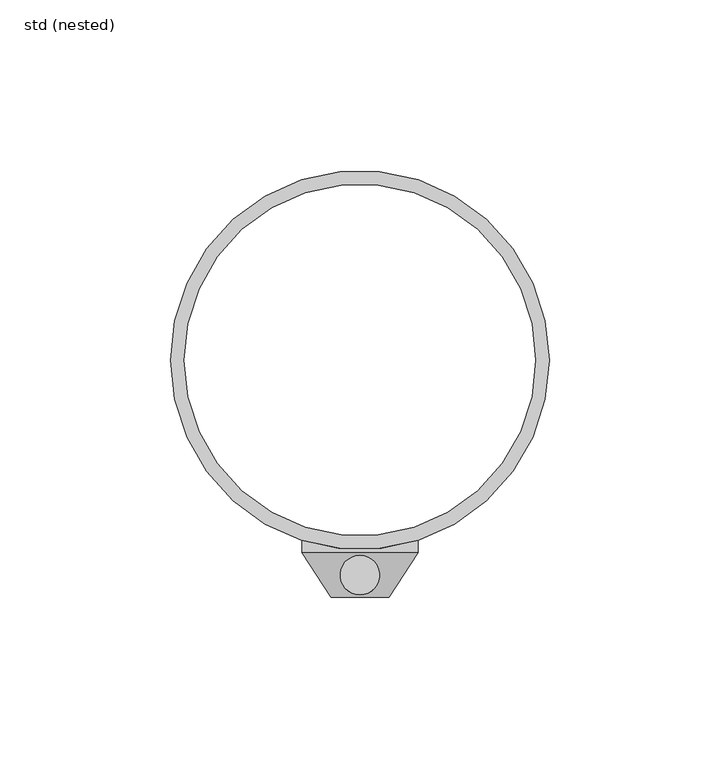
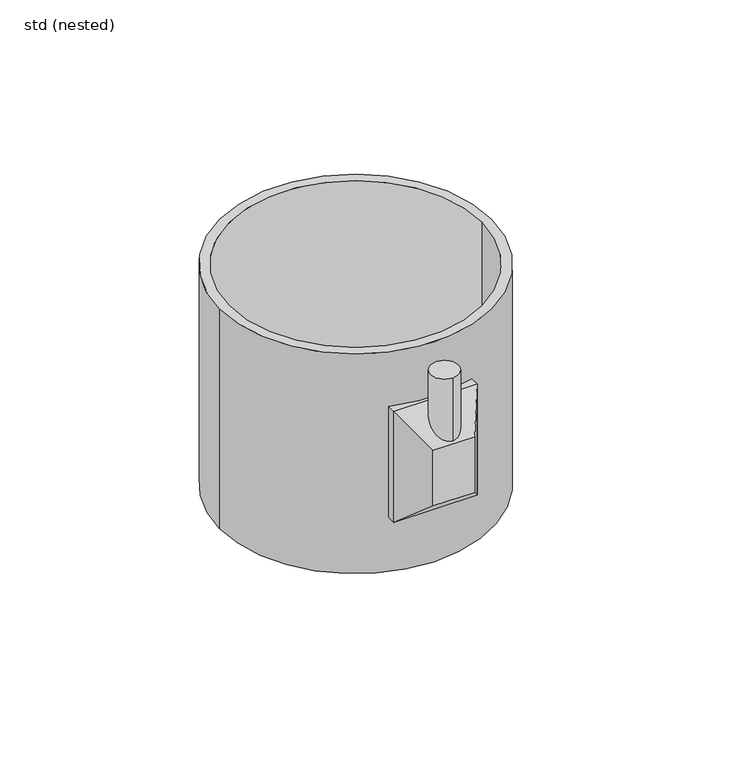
"""IFC4 building model written with IfcOpenShell, lengths in millimetres: unitary equipment geometry, ZZZ_do not use_ME_GEN_flat roof heating_ACO : std (nested)."""

import ifcopenshell
import ifcopenshell.guid

model = None  # the IFC model being written
_history = None  # IfcOwnerHistory: only IFC2X3 demands one
_inside = {}  # id of a spatial element -> (the spatial element, [elements in it])
_under = {}  # id of a project, library or spatial element -> (it, [spatial elements below it])
_declared = {}  # id of a project -> (the project, [libraries it declares])
_typed = {}  # id of a type object -> (the type object, [elements of that type])
_made_of = {}  # id of a material, layer set ... -> (it, [elements and type objects made of it])


def new_model(schema):
    """Start an empty IFC model of exactly this schema.

    Asked for "IFC4X3", IfcOpenShell would pick the latest addendum, in which some entities
    have other attributes; the version numbers below select the first issue.
    IFC2X3 requires an IfcOwnerHistory on every rooted entity: one is made here for all.
    """
    global model, _history
    if schema == "IFC4X3":
        model = ifcopenshell.file(schema_version=(4, 3, 0, 0))
    else:
        model = ifcopenshell.file(schema=schema)
    _inside.clear()
    _under.clear()
    _declared.clear()
    _typed.clear()
    _made_of.clear()
    _history = None
    if model.schema == "IFC2X3":
        org = make("IfcOrganization", Name="unknown")
        user = make(
            "IfcPersonAndOrganization",
            ThePerson=make("IfcPerson", FamilyName="unknown"),
            TheOrganization=org,
        )
        app = make(
            "IfcApplication",
            ApplicationDeveloper=org,
            Version="unknown",
            ApplicationFullName="unknown",
            ApplicationIdentifier="unknown",
        )
        _history = make(
            "IfcOwnerHistory",
            OwningUser=user,
            OwningApplication=app,
            ChangeAction="ADDED",
            CreationDate=0,
        )
    return model


def make(cls, **values):
    """One entity of the class cls with the attributes given. An attribute that is None is left unset."""
    return model.create_entity(
        cls, **{name: value for name, value in values.items() if value is not None}
    )


def rooted(cls, **values):
    """An entity with a GlobalId (a new one), such as an element, a storey or a relation."""
    return make(cls, GlobalId=ifcopenshell.guid.new(), OwnerHistory=_history, **values)


def si_unit(unit_type, name, prefix=None):
    """IfcSIUnit, for example si_unit("LENGTHUNIT", "METRE", prefix="MILLI")."""
    return make("IfcSIUnit", UnitType=unit_type, Prefix=prefix, Name=name)


def assignment(units):
    """IfcUnitAssignment: the units of a project."""
    return None if units is None else make("IfcUnitAssignment", Units=units)


def point(xyz):
    """IfcCartesianPoint."""
    return None if xyz is None else make("IfcCartesianPoint", Coordinates=xyz)


def direction(xyz):
    """IfcDirection."""
    return None if xyz is None else make("IfcDirection", DirectionRatios=xyz)


def frame(location, z_axis=None, x_axis=None):
    """IfcAxis2Placement3D, a coordinate frame: its origin and axes. An axis left out is left unset."""
    return make(
        "IfcAxis2Placement3D",
        Location=point(location),
        Axis=direction(z_axis),
        RefDirection=direction(x_axis),
    )


def frame_2d(location, x_axis=None):
    """IfcAxis2Placement2D, a coordinate frame in the plane: its origin and x axis."""
    return make(
        "IfcAxis2Placement2D", Location=point(location), RefDirection=direction(x_axis)
    )


def origin():
    """The frame at (0, 0, 0) with its axes left unset."""
    return frame((0.0, 0.0, 0.0))


def origin_2d():
    """The frame at (0, 0) in the plane with its x axis left unset."""
    return frame_2d((0.0, 0.0))


def place(relative_to, where):
    """IfcLocalPlacement: puts the frame where relative to a parent placement (None: the world)."""
    return make(
        "IfcLocalPlacement", PlacementRelTo=relative_to, RelativePlacement=where
    )


def context(
    kind, dimensions, precision=None, world=None, true_north=None, identifier=None
):
    """IfcGeometricRepresentationContext, for example the 3D "Model" context."""
    return make(
        "IfcGeometricRepresentationContext",
        ContextIdentifier=identifier,
        ContextType=kind,
        CoordinateSpaceDimension=dimensions,
        Precision=precision,
        WorldCoordinateSystem=world,
        TrueNorth=true_north,
    )


def project(units=None, contexts=None):
    """IfcProject with its units and contexts."""
    return rooted(
        "IfcProject",
        Name="project",
        RepresentationContexts=contexts,
        UnitsInContext=assignment(units),
    )


def spatial(cls, under=None, at=None, **own):
    """A site, building, storey or space (cls), placed at a placement, below another one or the project."""
    s = rooted(cls, ObjectPlacement=at, **own)
    if under is not None:
        _under.setdefault(under.id(), (under, []))[1].append(s)
    return s


def polyline(points):
    """IfcPolyline through the points."""
    return make("IfcPolyline", Points=[point(p) for p in points])


def circle_curve(where, radius):
    """IfcCircle in the frame where."""
    return make("IfcCircle", Position=where, Radius=radius)


def ellipse_curve(where, semi_axis1, semi_axis2):
    """IfcEllipse in the frame where."""
    return make(
        "IfcEllipse", Position=where, SemiAxis1=semi_axis1, SemiAxis2=semi_axis2
    )


def trimmed(basis, trim1, trim2, sense, master):
    """IfcTrimmedCurve: the piece of a basis curve between two trims."""
    return make(
        "IfcTrimmedCurve",
        BasisCurve=basis,
        Trim1=trim1,
        Trim2=trim2,
        SenseAgreement=sense,
        MasterRepresentation=master,
    )


def segment(curve, same_sense, transition):
    """IfcCompositeCurveSegment."""
    return make(
        "IfcCompositeCurveSegment",
        Transition=transition,
        SameSense=same_sense,
        ParentCurve=curve,
    )


def composite_curve(segments, self_intersect=None):
    """IfcCompositeCurve: segments joined end to end."""
    return make("IfcCompositeCurve", Segments=segments, SelfIntersect=self_intersect)


def outline(outer, holes=None, kind="AREA"):
    """IfcArbitraryClosedProfileDef: a profile drawn as a closed curve; with holes, ...WithVoids."""
    if holes is None:
        return make("IfcArbitraryClosedProfileDef", ProfileType=kind, OuterCurve=outer)
    return make(
        "IfcArbitraryProfileDefWithVoids",
        ProfileType=kind,
        OuterCurve=outer,
        InnerCurves=holes,
    )


def extrude(swept, where, along, depth):
    """IfcExtrudedAreaSolid: the profile swept, set in the frame where, extruded along a direction by depth."""
    return make(
        "IfcExtrudedAreaSolid",
        SweptArea=swept,
        Position=where,
        ExtrudedDirection=direction(along),
        Depth=depth,
    )


def shape(context_of_items, identifier, shape_type, items):
    """IfcShapeRepresentation: the items that make up one representation, for example the "Body"."""
    return make(
        "IfcShapeRepresentation",
        ContextOfItems=context_of_items,
        RepresentationIdentifier=identifier,
        RepresentationType=shape_type,
        Items=items,
    )


def source(mapping_origin, context_of_items, identifier, shape_type, items):
    """IfcRepresentationMap: a shape defined once, which mapped items show again and again."""
    return make(
        "IfcRepresentationMap",
        MappingOrigin=mapping_origin,
        MappedRepresentation=shape(context_of_items, identifier, shape_type, items),
    )


def transform(
    local_origin,
    x_axis=None,
    y_axis=None,
    z_axis=None,
    scale=None,
    scale2=None,
    scale3=None,
    uniform=True,
):
    """IfcCartesianTransformationOperator3D, or its non-uniform kind. x_axis, y_axis, z_axis: its Axis1, 2, 3."""
    if uniform:
        return make(
            "IfcCartesianTransformationOperator3D",
            Axis1=direction(x_axis),
            Axis2=direction(y_axis),
            LocalOrigin=point(local_origin),
            Scale=scale,
            Axis3=direction(z_axis),
        )
    return make(
        "IfcCartesianTransformationOperator3DnonUniform",
        Axis1=direction(x_axis),
        Axis2=direction(y_axis),
        LocalOrigin=point(local_origin),
        Scale=scale,
        Axis3=direction(z_axis),
        Scale2=scale2,
        Scale3=scale3,
    )


def mapped(mapping_source, mapping_target):
    """IfcMappedItem: shows the shape of a source again, moved by a transform."""
    return make(
        "IfcMappedItem", MappingSource=mapping_source, MappingTarget=mapping_target
    )


def made_of(thing, what):
    """Note that an element or type object is made of a material, layer set ...; save() writes the relation."""
    if what is not None:
        _made_of.setdefault(what.id(), (what, []))[1].append(thing)
    return thing


def element(
    cls,
    number,
    at=None,
    inside=None,
    cuts=None,
    type_object=None,
    material=None,
    context=None,
    identifier="Body",
    shape_type=None,
    held_by="IfcProductDefinitionShape",
    body=None,
    shapes=None,
    **own,
):
    """One element of the class cls, such as IfcWall. Its Tag is "e" and its number.

    at: its placement. inside: the storey or other place that contains it. cuts: it is an
    opening in that element (IfcRelVoidsElement). A single representation is given by context,
    identifier, shape_type and body (its items); several are given by shapes. held_by: the class
    of the entity that holds the representations. save() writes the other relations.
    """
    e = rooted(cls, Tag="e%d" % number, ObjectPlacement=at, **own)
    if body is not None:
        shapes = [shape(context, identifier, shape_type, body)]
    if shapes is not None:
        e.Representation = make(held_by, Representations=shapes)
    if inside is not None:
        _inside.setdefault(inside.id(), (inside, []))[1].append(e)
    if cuts is not None:
        rooted(
            "IfcRelVoidsElement", RelatingBuildingElement=cuts, RelatedOpeningElement=e
        )
    if type_object is not None:
        _typed.setdefault(type_object.id(), (type_object, []))[1].append(e)
    return made_of(e, material)


def aggregate(whole, parts):
    """IfcRelAggregates: a whole, such as a stair, and the parts it consists of."""
    return rooted("IfcRelAggregates", RelatingObject=whole, RelatedObjects=parts)


def save(model, path):
    """Write the relations noted so far, then the file.

    IfcRelAggregates (storeys below a building ...), IfcRelContainedInSpatialStructure (elements
    in a storey), IfcRelDefinesByType, IfcRelAssociatesMaterial and IfcRelDeclares: one each for
    every whole, place, type object, material and project.
    """
    for whole, parts in _under.values():
        aggregate(whole, parts)
    for where, things in _inside.values():
        rooted(
            "IfcRelContainedInSpatialStructure",
            RelatedElements=things,
            RelatingStructure=where,
        )
    for kind, things in _typed.values():
        rooted("IfcRelDefinesByType", RelatedObjects=things, RelatingType=kind)
    for what, things in _made_of.values():
        rooted("IfcRelAssociatesMaterial", RelatedObjects=things, RelatingMaterial=what)
    for by, libraries in _declared.values():
        rooted("IfcRelDeclares", RelatingContext=by, RelatedDefinitions=libraries)
    model.write(path)


def plane_surface(at):
    """IfcPlane: the flat surface through the origin of the frame at, square to its z axis."""
    return make("IfcPlane", Position=at)


def cylinder_surface(at, radius):
    """IfcCylindricalSurface: all points at the distance radius from the z axis of the frame at."""
    return make("IfcCylindricalSurface", Position=at, Radius=radius)


def advanced_brep(points, edges, surfaces, faces):
    """IfcAdvancedBrep: a solid bounded by faces that lie on surfaces and meet in shared edges.

    An edge is (start, end): straight between two places in points (the first is 0);
    or (start, end, curve); or (start, end, curve, False) where it runs against its curve.
    A face is (place in surfaces, loops), or (place, loops, False) where it looks against
    its surface's normal. A loop lists edges by number (the first is 1), with a minus sign
    where the edge is run from its end to its start. The first loop is the outer one.
    """
    corners = [point(p) for p in points]
    vertices = [make("IfcVertexPoint", VertexGeometry=c) for c in corners]
    made = []
    for start, end, *more in edges:
        made.append(
            make(
                "IfcEdgeCurve",
                EdgeStart=vertices[start],
                EdgeEnd=vertices[end],
                EdgeGeometry=more[0] if more else make("IfcPolyline", Points=[corners[start], corners[end]]),
                SameSense=more[1] if len(more) > 1 else True,
            )
        )
    hull = []
    for where, loops, *sense in faces:
        bounds = []
        for j, loop in enumerate(loops):
            ring = [make("IfcOrientedEdge", EdgeElement=made[abs(k) - 1], Orientation=k > 0) for k in loop]
            bounds.append(
                make(
                    "IfcFaceOuterBound" if j == 0 else "IfcFaceBound",
                    Bound=make("IfcEdgeLoop", EdgeList=ring),
                    Orientation=True,
                )
            )
        hull.append(make("IfcAdvancedFace", Bounds=bounds, FaceSurface=surfaces[where], SameSense=sense[0] if sense else True))
    return make("IfcAdvancedBrep", Outer=make("IfcClosedShell", CfsFaces=hull))


def std_nested_41c56b70(model_context):
    return source(origin(), model_context, "Body", "SolidModel", [
        advanced_brep(
        [(8.5, -69.5, -35.5), (-8.5, -69.5, -35.5), (-8.5, -69.5, -59.5), (8.5, -69.5, -59.5), (17.0, -56.5, -23.5), (17.0, -56.5, -71.5), (-17.0, -56.5, -71.5), (-17.0, -56.5, -23.5), (0.0, -68.75, -34.8076923), (0.0, -57.25, -24.1923077), (0.0, -57.25, -7.5), (0.0, -68.75, -7.5)],
        [
            (0, 1),
            (1, 2),
            (2, 3),
            (3, 0),
            (4, 5),
            (5, 6),
            (6, 7),
            (7, 4),
            (3, 5),
            (4, 0),
            (2, 6),
            (1, 7),
            (8, 9, ellipse_curve(frame((0.0, -63.0, -29.5), z_axis=(0.0, 0.6782801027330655, -0.7348034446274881), x_axis=(0.0, -0.7348034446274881, -0.6782801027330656)), 7.8252219, 5.75)),
            (9, 8, ellipse_curve(frame((0.0, -63.0, -29.5), z_axis=(0.0, 0.6782801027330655, -0.7348034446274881), x_axis=(0.0, -0.7348034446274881, -0.6782801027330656)), 7.8252219, 5.75)),
            (10, 11, circle_curve(frame((0.0, -63.0, -7.5), z_axis=(0.0, 0.0, 1.0), x_axis=(0.0, -1.0, 0.0)), 5.75)),
            (11, 10, circle_curve(frame((0.0, -63.0, -7.5), z_axis=(0.0, 0.0, 1.0), x_axis=(0.0, -1.0, 0.0)), 5.75)),
            (10, 9),
            (8, 11),
        ],
        [
            plane_surface(frame((0.0, -69.5, -47.5), z_axis=(0.0, -1.0, 0.0), x_axis=(0.0, 0.0, -1.0))),
            plane_surface(frame((0.0, -56.5, -47.5), z_axis=(0.0, 1.0, 0.0), x_axis=(0.0, 0.0, -1.0))),
            plane_surface(frame((17.0, -56.5, -47.5), z_axis=(0.8369696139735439, -0.5472493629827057, 0.0), x_axis=(0.0, 0.0, 1.0))),
            plane_surface(frame((0.0, -56.5, -71.5), z_axis=(0.0, -0.6782801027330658, -0.7348034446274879), x_axis=(1.0, 0.0, 0.0))),
            plane_surface(frame((-17.0, -56.5, -47.5), z_axis=(-0.8369696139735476, -0.5472493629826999, 0.0), x_axis=(0.0, 0.0, -1.0))),
            plane_surface(frame((0.0, -56.5, -23.5), z_axis=(0.0, -0.6782801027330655, 0.7348034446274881), x_axis=(-1.0, 0.0, 0.0))),
            plane_surface(frame((0.0, -63.0, -7.5), z_axis=(0.0, 0.0, 1.0), x_axis=(1.0, 0.0, 0.0))),
            cylinder_surface(frame((0.0, -63.0, -47.5), z_axis=(0.0, 0.0, -1.0), x_axis=(0.0, -1.0, 0.0)), 5.75),
        ],
        [
            (0, [[1, 2, 3, 4]]),
            (1, [[5, 6, 7, 8]]),
            (2, [[-4, 9, -5, 10]]),
            (3, [[-3, 11, -6, -9]]),
            (4, [[-2, 12, -7, -11]]),
            (5, [[-1, -10, -8, -12], [13, 14]]),
            (6, [[15, 16]]),
            (7, [[-15, 17, -13, 18]]),
            (7, [[-16, -18, -14, -17]]),
        ],
    ),
        extrude(outline(composite_curve([segment(polyline([(17.0, -56.5), (-17.0, -56.5), (-17.0, -52.8322818)]), True, "CONTINUOUS"), segment(trimmed(circle_curve(origin_2d(), 55.5), [point((-17.0, -52.8322818))], [point((17.0, -52.8322818))], True, "CARTESIAN"), True, "CONTINUOUS"), segment(polyline([(17.0, -52.8322818), (17.0, -56.5)]), True, "CONTINUOUS")], self_intersect=False)), frame((0.0, 0.0, -71.5), z_axis=(0.0, 0.0, 1.0), x_axis=(1.0, 0.0, 0.0)), (0.0, 0.0, 1.0), 48.0),
        extrude(outline(composite_curve([segment(trimmed(circle_curve(origin_2d(), 55.5), [point((-55.5, 0.0))], [point((55.5, 0.0))], False, "CARTESIAN"), True, "CONTINUOUS"), segment(trimmed(circle_curve(origin_2d(), 55.5), [point((55.5, 0.0))], [point((-55.5, 0.0))], False, "CARTESIAN"), True, "CONTINUOUS")], self_intersect=False), holes=[composite_curve([segment(trimmed(circle_curve(origin_2d(), 51.5), [point((-51.5, 0.0))], [point((51.5, 0.0))], True, "CARTESIAN"), True, "CONTINUOUS"), segment(trimmed(circle_curve(origin_2d(), 51.5), [point((51.5, 0.0))], [point((-51.5, 0.0))], True, "CARTESIAN"), True, "CONTINUOUS")], self_intersect=False)]), frame((0.0, 0.0, -95.0), z_axis=(0.0, 0.0, 1.0), x_axis=(1.0, 0.0, 0.0)), (0.0, 0.0, 1.0), 95.0),
    ])


if __name__ == "__main__":
    model = new_model("IFC4")
    model_context = context("Model", 3, world=origin())
    ifc_project = project(units=[si_unit("LENGTHUNIT", "METRE", prefix="MILLI")], contexts=[model_context])
    site = spatial("IfcSite", under=ifc_project)
    building = spatial("IfcBuilding", under=site)
    placement = place(None, origin())
    std_nested_shape = std_nested_41c56b70(model_context)
    element("IfcUnitaryEquipment", 1, ObjectType="ZZZ_do not use_ME_GEN_flat roof heating_ACO : std (nested)", at=placement, inside=building, context=model_context, shape_type="MappedRepresentation", body=[
        mapped(std_nested_shape, transform((0.0, 0.0, 0.0), x_axis=(1.0, 0.0, 0.0), y_axis=(0.0, 1.0, 0.0), z_axis=(0.0, 0.0, 1.0))),
    ])
    save(model, "model.ifc")
